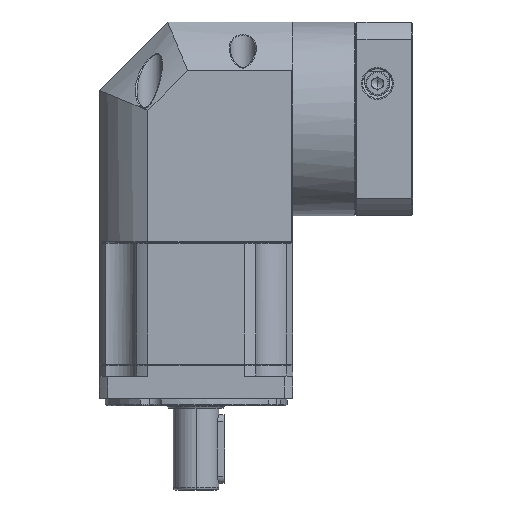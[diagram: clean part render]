
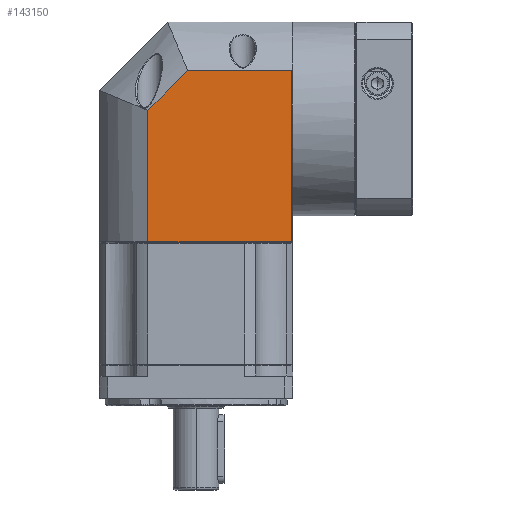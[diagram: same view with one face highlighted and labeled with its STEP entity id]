
A CAD part, front view. The second image highlights one B-rep face of the part: STEP entity #143150.
In plain terms, the highlighted planar face has unit normal (0, -1, 0).
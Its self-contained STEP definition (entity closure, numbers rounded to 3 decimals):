
#856 = EDGE_CURVE ( 'NONE', #108472, #174826, #58905, .T. ) ;
#9690 = FACE_OUTER_BOUND ( 'NONE', #46219, .T. ) ;
#9777 = CARTESIAN_POINT ( 'NONE',  ( 63.755, 100.105, 34.216 ) ) ;
#18668 = EDGE_CURVE ( 'NONE', #110878, #108472, #21579, .T. ) ;
#21579 = LINE ( 'NONE', #123277, #120925 ) ;
#23457 = DIRECTION ( 'NONE',  ( -1., 0., 0. ) ) ;
#23911 = ORIENTED_EDGE ( 'NONE', *, *, #149113, .F. ) ;
#24869 = ORIENTED_EDGE ( 'NONE', *, *, #856, .F. ) ;
#25512 = DIRECTION ( 'NONE',  ( 1., 0., 0. ) ) ;
#36427 = VECTOR ( 'NONE', #72602, 1000. ) ;
#40667 = LINE ( 'NONE', #100263, #36427 ) ;
#46219 = EDGE_LOOP ( 'NONE', ( #145316, #23911, #58558, #24869, #172587 ) ) ;
#50312 = VERTEX_POINT ( 'NONE', #169302 ) ;
#58558 = ORIENTED_EDGE ( 'NONE', *, *, #144290, .F. ) ;
#58905 = LINE ( 'NONE', #167479, #90595 ) ;
#72602 = DIRECTION ( 'NONE',  ( 1., 0., 0. ) ) ;
#84136 = AXIS2_PLACEMENT_3D ( 'NONE', #9777, #104406, #23457 ) ;
#90595 = VECTOR ( 'NONE', #100380, 1000. ) ;
#98039 = LINE ( 'NONE', #111025, #133850 ) ;
#100263 = CARTESIAN_POINT ( 'NONE',  ( 63.755, 100.105, 12.929 ) ) ;
#100380 = DIRECTION ( 'NONE',  ( 0.707, 0., 0.707 ) ) ;
#104406 = DIRECTION ( 'NONE',  ( 0., 1., 0. ) ) ;
#105978 = CARTESIAN_POINT ( 'NONE',  ( 63.255, 100.105, -62.284 ) ) ;
#106230 = CARTESIAN_POINT ( 'NONE',  ( 17.572, 100.105, 12.929 ) ) ;
#108472 = VERTEX_POINT ( 'NONE', #153588 ) ;
#110878 = VERTEX_POINT ( 'NONE', #165390 ) ;
#111025 = CARTESIAN_POINT ( 'NONE',  ( 63.255, 100.105, 34.216 ) ) ;
#117358 = PLANE ( 'NONE',  #84136 ) ;
#120036 = CARTESIAN_POINT ( 'NONE',  ( 63.755, 100.105, -62.284 ) ) ;
#120925 = VECTOR ( 'NONE', #136820, 1000. ) ;
#123277 = CARTESIAN_POINT ( 'NONE',  ( 0.041, 100.105, 34.216 ) ) ;
#133850 = VECTOR ( 'NONE', #165206, 1000. ) ;
#136820 = DIRECTION ( 'NONE',  ( 0., 0., 1. ) ) ;
#143150 = ADVANCED_FACE ( 'NONE', ( #9690 ), #117358, .F. ) ;
#144290 = EDGE_CURVE ( 'NONE', #174826, #50312, #40667, .T. ) ;
#145316 = ORIENTED_EDGE ( 'NONE', *, *, #145938, .T. ) ;
#145938 = EDGE_CURVE ( 'NONE', #110878, #150095, #171522, .T. ) ;
#149113 = EDGE_CURVE ( 'NONE', #50312, #150095, #98039, .T. ) ;
#150095 = VERTEX_POINT ( 'NONE', #105978 ) ;
#153588 = CARTESIAN_POINT ( 'NONE',  ( 0.041, 100.105, -4.602 ) ) ;
#165206 = DIRECTION ( 'NONE',  ( 0., 0., -1. ) ) ;
#165390 = CARTESIAN_POINT ( 'NONE',  ( 0.041, 100.105, -62.284 ) ) ;
#167239 = VECTOR ( 'NONE', #25512, 1000. ) ;
#167479 = CARTESIAN_POINT ( 'NONE',  ( 0.041, 100.105, -4.602 ) ) ;
#169302 = CARTESIAN_POINT ( 'NONE',  ( 63.255, 100.105, 12.929 ) ) ;
#171522 = LINE ( 'NONE', #120036, #167239 ) ;
#172587 = ORIENTED_EDGE ( 'NONE', *, *, #18668, .F. ) ;
#174826 = VERTEX_POINT ( 'NONE', #106230 ) ;
